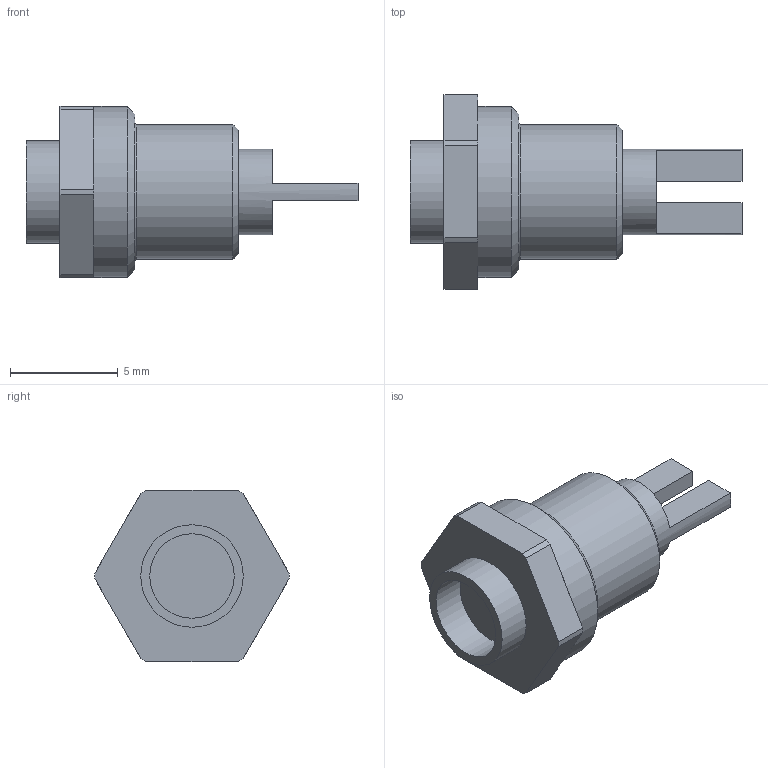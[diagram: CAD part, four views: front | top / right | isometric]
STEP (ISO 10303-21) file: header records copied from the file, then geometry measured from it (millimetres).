
FILE_DESCRIPTION(/* description */ (''),/* implementation_level */ '2;1');
FILE_NAME(/* name */ '\\Snap1\dwgs\Customer 3D Models\570\570-2383-01 Customer model.stp',/* time_stamp */ '2017-01-04T08:45:08+00:00',/* author */ ('paulk'),/* organization */ (''),/* preprocessor_version */ 'ST-DEVELOPER v15.2',/* originating_system */ 'Autodesk Inventor 2014',/* authorisation */ '');
FILE_SCHEMA (('CONFIG_CONTROL_DESIGN'));
Length unit declared in the file: millimetre
Products named in the file (1): 570-2383-01 Customer model
Bounding box: 15.38 x 9 x 7.92 mm (x, y, z)
Volume: 359.6 mm3; surface area: 384.9 mm2
Topology: 1 solids, 1 shells, 40 faces, 95 edges, 60 vertices
Faces by surface type: plane 25, cylinder 11, cone 4
Full cylindrical faces by diameter (mm): 3.912 x1, 3.962 x1, 4.75 x1, 6.223 x1, 7.925 x1
Entity records: 1162 total; most frequent: DIRECTION 198, CARTESIAN_POINT 181, ORIENTED_EDGE 166, EDGE_CURVE 83, AXIS2_PLACEMENT_3D 74, VERTEX_POINT 57, EDGE_LOOP 52, LINE 50
